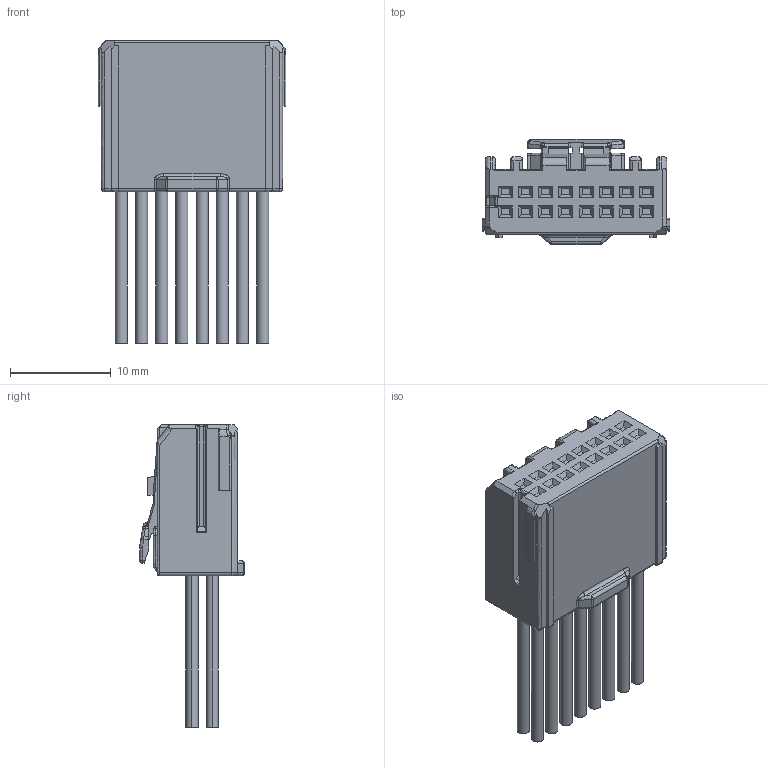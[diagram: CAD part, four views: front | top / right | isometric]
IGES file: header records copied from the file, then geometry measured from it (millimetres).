
Start section: SolidWorks IGES file using analytic representation for surfaces
Global section: file name: C:\Users\08803\Desktop\PDM\ISH全シリーズモデル(STEP)2017.2.6時点\水平\2列\16P\ISH\ISH-16P FEMALE CONNECTOR.IGS; native system: SolidWorks 2017; preprocessor: SolidWorks 2017; author: 08803; date: 180821.135049; units: millimetre
Bounding box: 18.6 x 10.4 x 29.95 mm (x, y, z)
Surface area: 2303 mm2 (no closed solid volume)
Topology: 0 solids, 0 shells, 586 faces, 4034 edges, 4023 vertices
Faces by surface type: bspline 405, revolution 181
